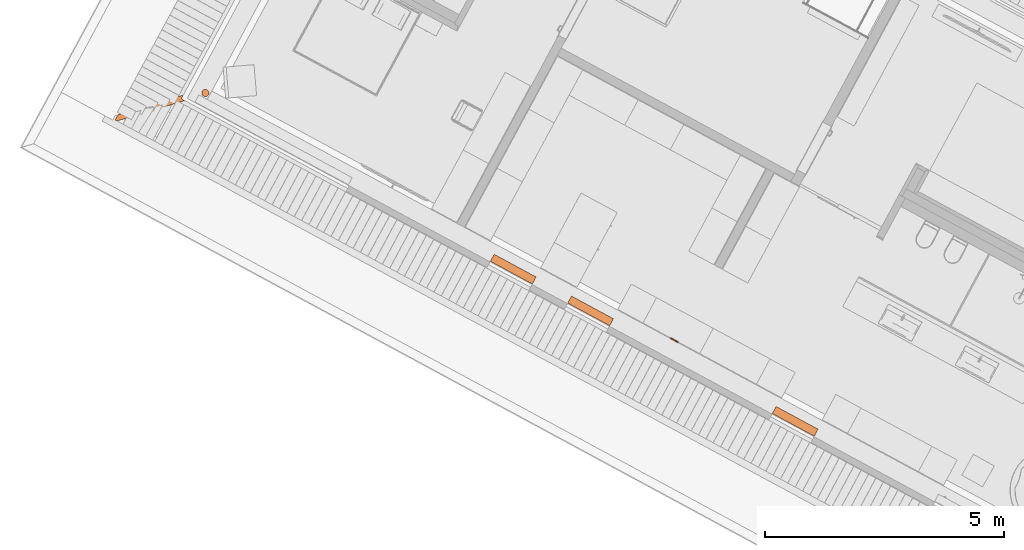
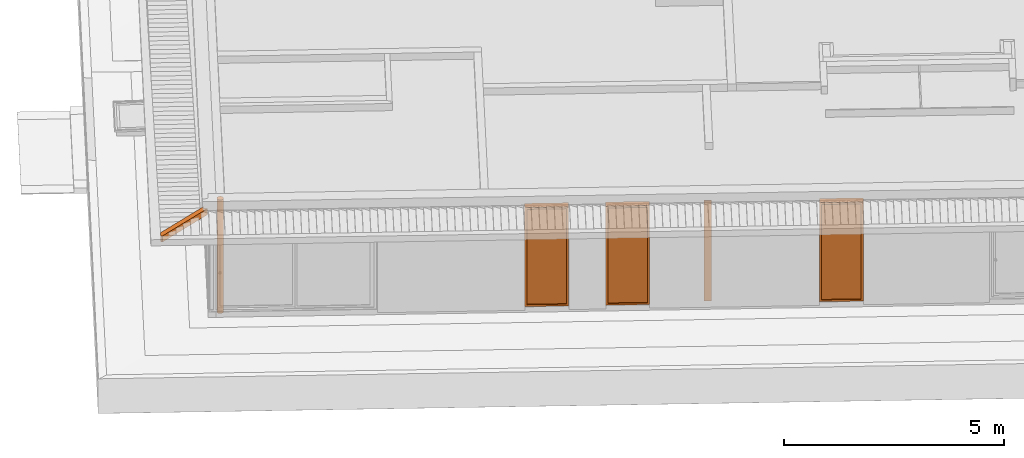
# One storey, part 39 of 48: 6 proxies.
"""IFC2X3 building model written with IfcOpenShell, lengths in metres."""

from ifc_helpers import new_model, entity, si_unit, converted_unit, derived_unit, money_unit, direction, frame, origin_with_axes, place, context, subcontext, project, spatial, faceted_brep, material, material_list, type_object, element, save


model = new_model("IFC2X3")

# Units and contexts
model_context = context("Model", 3, precision=1e-05, world=origin_with_axes(), true_north=direction((0.0, 1.0)))
body_context = subcontext(model_context, "Body", "Model", "MODEL_VIEW")
ifc_project = project(units=[si_unit("LENGTHUNIT", "METRE"), si_unit("AREAUNIT", "SQUARE_METRE"), si_unit("VOLUMEUNIT", "CUBIC_METRE"), converted_unit("PLANEANGLEUNIT", "DEGREE", entity("IfcPlaneAngleMeasure", 0.0174532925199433), si_unit("PLANEANGLEUNIT", "RADIAN"), dimensions=[0, 0, 0, 0, 0, 0, 0]), money_unit("EUR"), converted_unit("TIMEUNIT", "Year", entity("IfcTimeMeasure", 31556926.0), si_unit("TIMEUNIT", "SECOND"), dimensions=[0, 0, 1, 0, 0, 0, 0]), si_unit("MASSUNIT", "GRAM", prefix="KILO"), si_unit("THERMODYNAMICTEMPERATUREUNIT", "DEGREE_CELSIUS"), si_unit("LUMINOUSINTENSITYUNIT", "LUMEN"), si_unit("ENERGYUNIT", "JOULE", prefix="MEGA"), derived_unit("THERMALCONDUCTANCEUNIT", [(si_unit("POWERUNIT", "WATT"), 1), (si_unit("LENGTHUNIT", "METRE"), -1), (si_unit("THERMODYNAMICTEMPERATUREUNIT", "KELVIN"), -1)]), derived_unit("SPECIFICHEATCAPACITYUNIT", [(si_unit("ENERGYUNIT", "JOULE"), 1), (si_unit("MASSUNIT", "GRAM", prefix="KILO"), -1), (si_unit("THERMODYNAMICTEMPERATUREUNIT", "KELVIN"), -1)]), derived_unit("MASSDENSITYUNIT", [(si_unit("MASSUNIT", "GRAM", prefix="KILO"), 1), (si_unit("VOLUMEUNIT", "CUBIC_METRE"), -1)])], contexts=[model_context])

# Site, building, storey
site_placement = place(None, frame((-3.949935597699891, 1.740105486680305, 0.0), z_axis=(0.0, 0.0, 1.0), x_axis=(0.8799804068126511, -0.475009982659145, 0.0)))
site = spatial("IfcSite", under=ifc_project, at=site_placement, Name="Gelände", CompositionType="ELEMENT")
building_placement = place(site_placement, origin_with_axes())
building = spatial("IfcBuilding", under=site, at=building_placement, Name="Gebäude", CompositionType="ELEMENT")
storey_placement = place(building_placement, frame((0.0, 0.0, 4.55), z_axis=(0.0, 0.0, 1.0), x_axis=(1.0, 0.0, 0.0)))
storey = spatial("IfcBuildingStorey", under=building, at=storey_placement, Name="Staffelgeschoss", CompositionType="ELEMENT", Elevation=4.55)

# Proxies
ifc_material_1 = material(Name="Glas, Normalglas-50% durchlässig")
ifc_material_2 = material(Name="Metall, Stahl lackiert")
ifc_material_list_1 = material_list([ifc_material_1, ifc_material_2, ifc_material_2, ifc_material_2, ifc_material_2, ifc_material_2, ifc_material_2])
building_element_proxy_type_1 = type_object("IfcBuildingElementProxyType", Name="Fassadentyp", PredefinedType="NOTDEFINED")
proxy_1_placement = place(storey_placement, frame((19.47427115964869, 1.291987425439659, -5.75946277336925e-07), z_axis=(0.0, 0.0, 1.0), x_axis=(1.0, 0.0, 0.0)))
element("IfcBuildingElementProxy", 1, at=proxy_1_placement, inside=storey, type_object=building_element_proxy_type_1, material=ifc_material_list_1, Name="Fassade-006", context=body_context, shape_type="Brep", body=[
    faceted_brep([(0.6305897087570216, 0.01500000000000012, 2.720000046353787), (-0.3094103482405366, 0.01500000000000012, 2.720000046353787), (-0.3094103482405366, -0.0149999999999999, 2.720000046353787), (0.6305897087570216, -0.0149999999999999, 2.720000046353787), (0.6305897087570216, 0.0149999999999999, 0.03000000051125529), (-0.3094103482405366, 0.0149999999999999, 0.03000004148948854), (-0.3094103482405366, -0.0149999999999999, 0.03000004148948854), (0.6305897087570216, -0.0149999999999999, 0.03000000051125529)], [[[0, 1, 2, 3]], [[0, 4, 5, 1]], [[1, 5, 6, 2]], [[3, 2, 6, 7]], [[4, 0, 3, 7]], [[5, 4, 7, 6]]]),
    faceted_brep([(-0.339410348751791, -0.03499999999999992, 0.0), (-0.3211792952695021, -0.03499999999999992, 0.0), (-0.3211792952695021, -0.03499999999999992, 0.01823101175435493), (-0.339410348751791, 0.133, 0.0), (-0.3211792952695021, 0.133, 0.0), (-0.3211792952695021, 0.133, 0.01823101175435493)], [[[0, 1, 2]], [[3, 4, 1, 0]], [[2, 1, 4, 5]], [[2, 5, 3, 0]], [[5, 4, 3]]]),
    faceted_brep([(0.6305897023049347, 0.0149999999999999, 2.720000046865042), (0.6105897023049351, 0.0149999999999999, 2.700000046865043), (0.6105897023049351, 0.133, 2.700000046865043), (0.6605897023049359, 0.133, 2.750000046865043), (0.6605897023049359, -0.03500000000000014, 2.750000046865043), (0.6105897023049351, -0.03500000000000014, 2.700000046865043), (0.6105897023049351, -0.01500000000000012, 2.700000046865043), (0.6305897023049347, -0.01500000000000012, 2.720000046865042), (-0.3211793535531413, 0.0149999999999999, 2.720000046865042), (-0.3211793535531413, 0.0149999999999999, 2.700000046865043), (-0.3211793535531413, 0.133, 2.700000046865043), (-0.3211793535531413, 0.133, 2.750000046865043), (-0.3211793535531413, -0.03499999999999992, 2.750000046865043), (-0.3211793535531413, -0.03499999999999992, 2.700000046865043), (-0.3211793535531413, -0.0149999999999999, 2.700000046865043), (-0.3211793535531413, -0.0149999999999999, 2.720000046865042)], [[[0, 1, 2, 3, 4, 5, 6, 7]], [[0, 8, 9, 1]], [[9, 10, 2, 1]], [[10, 11, 3, 2]], [[11, 12, 4, 3]], [[12, 13, 5, 4]], [[6, 5, 13, 14]], [[14, 15, 7, 6]], [[7, 15, 8, 0]], [[8, 15, 14, 13, 12, 11, 10, 9]]]),
    faceted_brep([(-0.339410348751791, -0.03499999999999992, 2.750000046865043), (-0.3211793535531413, -0.03499999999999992, 2.731769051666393), (-0.3211793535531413, -0.03499999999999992, 2.750000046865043), (-0.339410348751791, 0.133, 2.750000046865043), (-0.3211793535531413, 0.133, 2.731769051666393), (-0.3211793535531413, 0.133, 2.750000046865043)], [[[0, 1, 2]], [[1, 0, 3, 4]], [[1, 4, 5, 2]], [[3, 0, 2, 5]], [[4, 3, 5]]]),
    faceted_brep([(0.6305897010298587, 0.0149999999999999, 0.03000004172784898), (0.6305897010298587, -0.01500000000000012, 0.03000004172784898), (0.6105897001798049, -0.01500000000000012, 0.05000004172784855), (0.6105897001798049, -0.03500000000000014, 0.05000004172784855), (0.6605897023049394, -0.03500000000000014, 4.172784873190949e-08), (0.6605897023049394, 0.133, 4.172784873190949e-08), (0.6105897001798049, 0.133, 0.05000004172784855), (0.6105897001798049, 0.0149999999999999, 0.05000004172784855), (-0.3211794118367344, 0.0149999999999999, 0.03000004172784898), (-0.3211794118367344, -0.0149999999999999, 0.03000004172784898), (-0.3211794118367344, -0.0149999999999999, 0.05000004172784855), (-0.3211794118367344, -0.03499999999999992, 0.05000004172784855), (-0.3211794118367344, -0.03499999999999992, 4.172784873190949e-08), (-0.3211794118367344, 0.133, 4.172784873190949e-08), (-0.3211794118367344, 0.133, 0.05000004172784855), (-0.3211794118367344, 0.01500000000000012, 0.05000004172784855)], [[[0, 1, 2, 3, 4, 5, 6, 7]], [[1, 0, 8, 9]], [[10, 2, 1, 9]], [[2, 10, 11, 3]], [[12, 4, 3, 11]], [[13, 5, 4, 12]], [[14, 6, 5, 13]], [[15, 7, 6, 14]], [[0, 7, 15, 8]], [[8, 15, 14, 13, 12, 11, 10, 9]]]),
    faceted_brep([(-0.3094103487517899, 0.0149999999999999, 0.03000004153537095), (-0.3094103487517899, -0.0149999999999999, 0.03000004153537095), (-0.2894103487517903, -0.0149999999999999, 0.05000004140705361), (-0.2894103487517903, -0.03499999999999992, 0.05000004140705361), (-0.339410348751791, -0.03499999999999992, 4.172784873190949e-08), (-0.339410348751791, 0.133, 4.172784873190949e-08), (-0.2894103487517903, 0.133, 0.05000004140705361), (-0.2894103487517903, 0.0149999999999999, 0.05000004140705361), (-0.3094103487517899, 0.0149999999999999, 2.720000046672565), (-0.3094103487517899, -0.0149999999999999, 2.720000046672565), (-0.2894103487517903, -0.0149999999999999, 2.700000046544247), (-0.2894103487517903, -0.03499999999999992, 2.700000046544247), (-0.339410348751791, -0.03499999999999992, 2.750000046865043), (-0.339410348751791, 0.133, 2.750000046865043), (-0.2894103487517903, 0.133, 2.700000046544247), (-0.2894103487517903, 0.01500000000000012, 2.700000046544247)], [[[0, 1, 2, 3, 4, 5, 6, 7]], [[1, 0, 8, 9]], [[10, 2, 1, 9]], [[2, 10, 11, 3]], [[4, 3, 11, 12]], [[5, 4, 12, 13]], [[6, 5, 13, 14]], [[15, 7, 6, 14]], [[0, 7, 15, 8]], [[8, 15, 14, 13, 12, 11, 10, 9]]]),
    faceted_brep([(0.6305897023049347, 0.0149999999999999, 2.720000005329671), (0.6305897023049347, -0.0149999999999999, 2.720000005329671), (0.6105897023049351, -0.0149999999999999, 2.70000000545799), (0.6105897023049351, -0.03499999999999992, 2.70000000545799), (0.6605897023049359, -0.03499999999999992, 2.750000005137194), (0.6605897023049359, 0.133, 2.750000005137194), (0.6105897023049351, 0.133, 2.70000000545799), (0.6105897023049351, 0.0149999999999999, 2.70000000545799), (0.6305897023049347, 0.0149999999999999, 0.03000000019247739), (0.6305897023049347, -0.0149999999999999, 0.03000000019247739), (0.6105897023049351, -0.0149999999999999, 0.05000000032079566), (0.6105897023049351, -0.03499999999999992, 0.05000000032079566), (0.6605897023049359, -0.03499999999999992, 0.0), (0.6605897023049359, 0.133, 0.0), (0.6105897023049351, 0.133, 0.05000000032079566), (0.6105897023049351, 0.0149999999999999, 0.05000000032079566)], [[[0, 1, 2, 3, 4, 5, 6, 7]], [[1, 0, 8, 9]], [[10, 2, 1, 9]], [[2, 10, 11, 3]], [[4, 3, 11, 12]], [[5, 4, 12, 13]], [[6, 5, 13, 14]], [[15, 7, 6, 14]], [[0, 7, 15, 8]], [[8, 15, 14, 13, 12, 11, 10, 9]]]),
])
proxy_2_placement = place(storey_placement, frame((12.7656115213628, 1.291987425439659, -5.342184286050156e-07), z_axis=(0.0, 0.0, 1.0), x_axis=(1.0, 0.0, 0.0)))
element("IfcBuildingElementProxy", 2, at=proxy_2_placement, inside=storey, type_object=building_element_proxy_type_1, material=ifc_material_list_1, Name="Fassade-006", context=body_context, shape_type="Brep", body=[
    faceted_brep([(0.6285923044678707, 0.01500000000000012, 2.720000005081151), (-0.3114077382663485, 0.01500000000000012, 2.720000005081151), (-0.3114077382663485, -0.0149999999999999, 2.720000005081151), (0.6285923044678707, -0.0149999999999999, 2.720000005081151), (0.6285923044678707, 0.0149999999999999, 0.03000000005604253), (-0.3114077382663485, 0.0149999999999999, 0.03000000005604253), (-0.3114077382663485, -0.0149999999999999, 0.03000000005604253), (0.6285923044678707, -0.0149999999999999, 0.03000000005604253)], [[[0, 1, 2, 3]], [[0, 4, 5, 1]], [[1, 5, 6, 2]], [[3, 2, 6, 7]], [[4, 0, 3, 7]], [[5, 4, 7, 6]]]),
    faceted_brep([(-0.3414077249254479, -0.03499999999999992, 0.0), (-0.3171845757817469, -0.03499999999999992, 0.0), (-0.3171845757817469, -0.03499999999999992, 0.0242231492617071), (-0.3414077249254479, 0.133, 0.0), (-0.3171845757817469, 0.133, 0.0), (-0.3171845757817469, 0.133, 0.0242231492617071)], [[[0, 1, 2]], [[3, 4, 1, 0]], [[2, 1, 4, 5]], [[2, 5, 3, 0]], [[5, 4, 3]]]),
    faceted_brep([(0.6285922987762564, 0.0149999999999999, 2.720000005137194), (0.6085922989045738, 0.0149999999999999, 2.700000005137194), (0.6085922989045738, 0.133, 2.700000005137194), (0.6585922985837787, 0.133, 2.750000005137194), (0.6585922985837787, -0.03500000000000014, 2.750000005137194), (0.6085922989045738, -0.03500000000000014, 2.700000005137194), (0.6085922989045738, -0.01500000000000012, 2.700000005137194), (0.6285922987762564, -0.01500000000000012, 2.720000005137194), (-0.3171845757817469, 0.0149999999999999, 2.720000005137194), (-0.3171845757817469, 0.0149999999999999, 2.700000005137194), (-0.3171845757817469, 0.133, 2.700000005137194), (-0.3171845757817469, 0.133, 2.750000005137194), (-0.3171845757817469, -0.03499999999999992, 2.750000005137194), (-0.3171845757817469, -0.03499999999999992, 2.700000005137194), (-0.3171845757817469, -0.0149999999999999, 2.700000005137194), (-0.3171845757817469, -0.0149999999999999, 2.720000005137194)], [[[0, 1, 2, 3, 4, 5, 6, 7]], [[0, 8, 9, 1]], [[9, 10, 2, 1]], [[10, 11, 3, 2]], [[11, 12, 4, 3]], [[12, 13, 5, 4]], [[6, 5, 13, 14]], [[14, 15, 7, 6]], [[7, 15, 8, 0]], [[8, 15, 14, 13, 12, 11, 10, 9]]]),
    faceted_brep([(-0.3414077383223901, -0.03499999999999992, 2.750000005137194), (-0.3171845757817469, -0.03499999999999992, 2.725776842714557), (-0.3171845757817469, -0.03499999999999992, 2.750000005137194), (-0.3414077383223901, 0.133, 2.750000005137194), (-0.3171845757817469, 0.133, 2.725776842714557), (-0.3171845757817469, 0.133, 2.750000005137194)], [[[0, 1, 2]], [[1, 0, 3, 4]], [[1, 4, 5, 2]], [[3, 0, 2, 5]], [[4, 3, 5]]]),
    faceted_brep([(0.6285923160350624, 0.0149999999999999, 0.03000000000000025), (0.6285923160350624, -0.01500000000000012, 0.03000000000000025), (0.6085923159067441, -0.01500000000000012, 0.04999999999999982), (0.6085923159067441, -0.03500000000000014, 0.04999999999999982), (0.6585923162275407, -0.03500000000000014, 0.0), (0.6585923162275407, 0.133, 0.0), (0.6085923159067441, 0.133, 0.04999999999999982), (0.6085923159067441, 0.0149999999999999, 0.04999999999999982), (-0.3171845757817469, 0.0149999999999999, 0.03000000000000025), (-0.3171845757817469, -0.0149999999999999, 0.03000000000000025), (-0.3171845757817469, -0.0149999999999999, 0.04999999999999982), (-0.3171845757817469, -0.03499999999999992, 0.04999999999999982), (-0.3171845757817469, -0.03499999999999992, 0.0), (-0.3171845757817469, 0.133, 0.0), (-0.3171845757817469, 0.133, 0.04999999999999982), (-0.3171845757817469, 0.01500000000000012, 0.04999999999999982)], [[[0, 1, 2, 3, 4, 5, 6, 7]], [[1, 0, 8, 9]], [[10, 2, 1, 9]], [[2, 10, 11, 3]], [[12, 4, 3, 11]], [[13, 5, 4, 12]], [[14, 6, 5, 13]], [[15, 7, 6, 14]], [[0, 7, 15, 8]], [[8, 15, 14, 13, 12, 11, 10, 9]]]),
    faceted_brep([(-0.3114077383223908, 0.0149999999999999, 0.02999999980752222), (-0.3114077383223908, -0.0149999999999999, 0.02999999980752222), (-0.2914077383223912, -0.0149999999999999, 0.04999999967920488), (-0.2914077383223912, -0.03499999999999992, 0.04999999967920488), (-0.3414077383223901, -0.03499999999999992, 0.0), (-0.3414077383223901, 0.133, 0.0), (-0.2914077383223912, 0.133, 0.04999999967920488), (-0.2914077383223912, 0.0149999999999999, 0.04999999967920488), (-0.3114077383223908, 0.0149999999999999, 2.720000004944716), (-0.3114077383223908, -0.0149999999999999, 2.720000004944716), (-0.2914077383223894, -0.0149999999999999, 2.700000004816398), (-0.2914077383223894, -0.03499999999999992, 2.700000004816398), (-0.3414077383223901, -0.03499999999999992, 2.750000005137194), (-0.3414077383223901, 0.133, 2.750000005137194), (-0.2914077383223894, 0.133, 2.700000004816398), (-0.2914077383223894, 0.01500000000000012, 2.700000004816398)], [[[0, 1, 2, 3, 4, 5, 6, 7]], [[1, 0, 8, 9]], [[10, 2, 1, 9]], [[2, 10, 11, 3]], [[4, 3, 11, 12]], [[5, 4, 12, 13]], [[6, 5, 13, 14]], [[15, 7, 6, 14]], [[0, 7, 15, 8]], [[8, 15, 14, 13, 12, 11, 10, 9]]]),
    faceted_brep([(0.6285923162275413, 0.0149999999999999, 2.720000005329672), (0.6285923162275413, -0.0149999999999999, 2.720000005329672), (0.60859231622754, -0.0149999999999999, 2.700000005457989), (0.60859231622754, -0.03499999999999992, 2.700000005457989), (0.6585923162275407, -0.03499999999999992, 2.750000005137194), (0.6585923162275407, 0.133, 2.750000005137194), (0.60859231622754, 0.133, 2.700000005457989), (0.60859231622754, 0.0149999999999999, 2.700000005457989), (0.6285923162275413, 0.0149999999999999, 0.03000000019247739), (0.6285923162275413, -0.0149999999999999, 0.03000000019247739), (0.60859231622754, -0.0149999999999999, 0.05000000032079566), (0.60859231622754, -0.03499999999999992, 0.05000000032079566), (0.6585923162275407, -0.03499999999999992, 0.0), (0.6585923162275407, 0.133, 0.0), (0.60859231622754, 0.133, 0.05000000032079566), (0.60859231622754, 0.0149999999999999, 0.05000000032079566)], [[[0, 1, 2, 3, 4, 5, 6, 7]], [[1, 0, 8, 9]], [[10, 2, 1, 9]], [[2, 10, 11, 3]], [[4, 3, 11, 12]], [[5, 4, 12, 13]], [[6, 5, 13, 14]], [[15, 7, 6, 14]], [[0, 7, 15, 8]], [[8, 15, 14, 13, 12, 11, 10, 9]]]),
])
proxy_3_placement = place(storey_placement, frame((14.60639966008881, 1.291987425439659, -5.342184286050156e-07), z_axis=(0.0, 0.0, 1.0), x_axis=(1.0, 0.0, 0.0)))
element("IfcBuildingElementProxy", 3, at=proxy_3_placement, inside=storey, type_object=building_element_proxy_type_1, material=ifc_material_list_1, Name="Fassade-006", context=body_context, shape_type="Brep", body=[
    faceted_brep([(0.6285923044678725, 0.01500000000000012, 2.720000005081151), (-0.3114077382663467, 0.01500000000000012, 2.720000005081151), (-0.3114077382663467, -0.0149999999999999, 2.720000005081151), (0.6285923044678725, -0.0149999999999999, 2.720000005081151), (0.6285923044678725, 0.0149999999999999, 0.03000000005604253), (-0.3114077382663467, 0.0149999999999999, 0.03000000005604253), (-0.3114077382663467, -0.0149999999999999, 0.03000000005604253), (0.6285923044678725, -0.0149999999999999, 0.03000000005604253)], [[[0, 1, 2, 3]], [[0, 4, 5, 1]], [[1, 5, 6, 2]], [[3, 2, 6, 7]], [[4, 0, 3, 7]], [[5, 4, 7, 6]]]),
    faceted_brep([(-0.3414077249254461, -0.03499999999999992, 0.0), (-0.3171845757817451, -0.03499999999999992, 0.0), (-0.3171845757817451, -0.03499999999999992, 0.0242231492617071), (-0.3414077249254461, 0.133, 0.0), (-0.3171845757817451, 0.133, 0.0), (-0.3171845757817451, 0.133, 0.0242231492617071)], [[[0, 1, 2]], [[3, 4, 1, 0]], [[2, 1, 4, 5]], [[2, 5, 3, 0]], [[5, 4, 3]]]),
    faceted_brep([(0.6285922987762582, 0.0149999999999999, 2.720000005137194), (0.6085922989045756, 0.0149999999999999, 2.700000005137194), (0.6085922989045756, 0.133, 2.700000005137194), (0.6585922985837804, 0.133, 2.750000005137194), (0.6585922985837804, -0.03500000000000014, 2.750000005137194), (0.6085922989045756, -0.03500000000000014, 2.700000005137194), (0.6085922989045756, -0.01500000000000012, 2.700000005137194), (0.6285922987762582, -0.01500000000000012, 2.720000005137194), (-0.3171845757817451, 0.0149999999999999, 2.720000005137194), (-0.3171845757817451, 0.0149999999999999, 2.700000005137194), (-0.3171845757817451, 0.133, 2.700000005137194), (-0.3171845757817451, 0.133, 2.750000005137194), (-0.3171845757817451, -0.03499999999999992, 2.750000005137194), (-0.3171845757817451, -0.03499999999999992, 2.700000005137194), (-0.3171845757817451, -0.0149999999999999, 2.700000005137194), (-0.3171845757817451, -0.0149999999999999, 2.720000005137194)], [[[0, 1, 2, 3, 4, 5, 6, 7]], [[0, 8, 9, 1]], [[9, 10, 2, 1]], [[10, 11, 3, 2]], [[11, 12, 4, 3]], [[12, 13, 5, 4]], [[6, 5, 13, 14]], [[14, 15, 7, 6]], [[7, 15, 8, 0]], [[8, 15, 14, 13, 12, 11, 10, 9]]]),
    faceted_brep([(-0.3414077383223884, -0.03499999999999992, 2.750000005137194), (-0.3171845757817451, -0.03499999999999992, 2.725776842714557), (-0.3171845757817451, -0.03499999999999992, 2.750000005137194), (-0.3414077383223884, 0.133, 2.750000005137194), (-0.3171845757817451, 0.133, 2.725776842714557), (-0.3171845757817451, 0.133, 2.750000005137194)], [[[0, 1, 2]], [[1, 0, 3, 4]], [[1, 4, 5, 2]], [[3, 0, 2, 5]], [[4, 3, 5]]]),
    faceted_brep([(0.6285923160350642, 0.0149999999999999, 0.03000000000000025), (0.6285923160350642, -0.01500000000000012, 0.03000000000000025), (0.6085923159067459, -0.01500000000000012, 0.04999999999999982), (0.6085923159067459, -0.03500000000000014, 0.04999999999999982), (0.6585923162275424, -0.03500000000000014, 0.0), (0.6585923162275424, 0.133, 0.0), (0.6085923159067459, 0.133, 0.04999999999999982), (0.6085923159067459, 0.0149999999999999, 0.04999999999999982), (-0.3171845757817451, 0.0149999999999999, 0.03000000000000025), (-0.3171845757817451, -0.0149999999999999, 0.03000000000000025), (-0.3171845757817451, -0.0149999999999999, 0.04999999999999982), (-0.3171845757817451, -0.03499999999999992, 0.04999999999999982), (-0.3171845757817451, -0.03499999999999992, 0.0), (-0.3171845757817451, 0.133, 0.0), (-0.3171845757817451, 0.133, 0.04999999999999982), (-0.3171845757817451, 0.01500000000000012, 0.04999999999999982)], [[[0, 1, 2, 3, 4, 5, 6, 7]], [[1, 0, 8, 9]], [[10, 2, 1, 9]], [[2, 10, 11, 3]], [[12, 4, 3, 11]], [[13, 5, 4, 12]], [[14, 6, 5, 13]], [[15, 7, 6, 14]], [[0, 7, 15, 8]], [[8, 15, 14, 13, 12, 11, 10, 9]]]),
    faceted_brep([(-0.311407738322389, 0.0149999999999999, 0.02999999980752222), (-0.311407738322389, -0.0149999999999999, 0.02999999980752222), (-0.2914077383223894, -0.0149999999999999, 0.04999999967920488), (-0.2914077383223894, -0.03499999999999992, 0.04999999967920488), (-0.3414077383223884, -0.03499999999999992, 0.0), (-0.3414077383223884, 0.133, 0.0), (-0.2914077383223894, 0.133, 0.04999999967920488), (-0.2914077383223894, 0.0149999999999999, 0.04999999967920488), (-0.311407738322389, 0.0149999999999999, 2.720000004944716), (-0.311407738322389, -0.0149999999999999, 2.720000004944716), (-0.2914077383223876, -0.0149999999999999, 2.700000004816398), (-0.2914077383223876, -0.03499999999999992, 2.700000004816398), (-0.3414077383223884, -0.03499999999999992, 2.750000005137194), (-0.3414077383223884, 0.133, 2.750000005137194), (-0.2914077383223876, 0.133, 2.700000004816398), (-0.2914077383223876, 0.01500000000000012, 2.700000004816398)], [[[0, 1, 2, 3, 4, 5, 6, 7]], [[1, 0, 8, 9]], [[10, 2, 1, 9]], [[2, 10, 11, 3]], [[4, 3, 11, 12]], [[5, 4, 12, 13]], [[6, 5, 13, 14]], [[15, 7, 6, 14]], [[0, 7, 15, 8]], [[8, 15, 14, 13, 12, 11, 10, 9]]]),
    faceted_brep([(0.6285923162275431, 0.0149999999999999, 2.720000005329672), (0.6285923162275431, -0.0149999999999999, 2.720000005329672), (0.6085923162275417, -0.0149999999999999, 2.700000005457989), (0.6085923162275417, -0.03499999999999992, 2.700000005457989), (0.6585923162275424, -0.03499999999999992, 2.750000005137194), (0.6585923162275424, 0.133, 2.750000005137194), (0.6085923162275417, 0.133, 2.700000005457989), (0.6085923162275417, 0.0149999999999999, 2.700000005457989), (0.6285923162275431, 0.0149999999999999, 0.03000000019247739), (0.6285923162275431, -0.0149999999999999, 0.03000000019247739), (0.6085923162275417, -0.0149999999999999, 0.05000000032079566), (0.6085923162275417, -0.03499999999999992, 0.05000000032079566), (0.6585923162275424, -0.03499999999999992, 0.0), (0.6585923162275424, 0.133, 0.0), (0.6085923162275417, 0.133, 0.05000000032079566), (0.6085923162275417, 0.0149999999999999, 0.05000000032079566)], [[[0, 1, 2, 3, 4, 5, 6, 7]], [[1, 0, 8, 9]], [[10, 2, 1, 9]], [[2, 10, 11, 3]], [[4, 3, 11, 12]], [[5, 4, 12, 13]], [[6, 5, 13, 14]], [[15, 7, 6, 14]], [[0, 7, 15, 8]], [[8, 15, 14, 13, 12, 11, 10, 9]]]),
])
ifc_material_3 = material(Name="Metall, Edelstahl")
building_element_proxy_type_2 = type_object("IfcBuildingElementProxyType", Name="Metall, Edelstahl D152", PredefinedType="NOTDEFINED")
proxy_4_placement = place(storey_placement, frame((5.497480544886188, 1.52499043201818, -0.1900000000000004), z_axis=(0.0, 0.0, 1.0), x_axis=(1.0, 0.0, 0.0)))
element("IfcBuildingElementProxy", 4, at=proxy_4_placement, inside=storey, type_object=building_element_proxy_type_2, material=ifc_material_3, Name="Stütze-003", context=body_context, shape_type="Brep", body=[
    faceted_brep([(-0.07599999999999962, 0.0, 3.155000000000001), (-0.07599999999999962, 0.0, 0.0), (-0.07228029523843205, -0.0234852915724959, 0.0), (-0.07228029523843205, -0.0234852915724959, 3.155000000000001), (-0.07228029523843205, 0.02348529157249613, 3.155000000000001), (-0.07228029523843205, 0.02348529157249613, 0.0), (-0.06148529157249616, 0.04467167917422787, 0.0), (-0.0446716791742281, 0.06148529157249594, 0.0), (-0.0234852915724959, 0.0722802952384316, 0.0), (0.0, 0.07600000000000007, 0.0), (0.0234852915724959, 0.0722802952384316, 0.0), (0.0446716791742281, 0.06148529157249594, 0.0), (0.06148529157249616, 0.04467167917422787, 0.0), (0.07228029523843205, 0.0234852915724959, 0.0), (0.07599999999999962, 0.0, 0.0), (0.07228029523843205, -0.02348529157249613, 0.0), (0.06148529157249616, -0.04467167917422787, 0.0), (0.0446716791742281, -0.06148529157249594, 0.0), (0.0234852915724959, -0.0722802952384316, 0.0), (0.0, -0.07600000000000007, 0.0), (-0.0234852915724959, -0.0722802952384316, 0.0), (-0.0446716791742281, -0.06148529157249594, 0.0), (-0.06148529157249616, -0.04467167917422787, 0.0), (-0.06148529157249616, -0.04467167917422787, 3.155000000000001), (-0.0446716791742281, -0.06148529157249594, 3.155000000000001), (-0.0234852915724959, -0.0722802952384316, 3.155000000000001), (0.0, -0.07600000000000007, 3.155000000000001), (0.0234852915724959, -0.0722802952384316, 3.155000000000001), (0.0446716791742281, -0.06148529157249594, 3.155000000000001), (0.06148529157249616, -0.04467167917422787, 3.155000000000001), (0.07228029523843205, -0.02348529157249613, 3.155000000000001), (0.07599999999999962, 0.0, 3.155000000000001), (0.07228029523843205, 0.0234852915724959, 3.155000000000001), (0.06148529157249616, 0.04467167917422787, 3.155000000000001), (0.0446716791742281, 0.06148529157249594, 3.155000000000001), (0.0234852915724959, 0.0722802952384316, 3.155000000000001), (0.0, 0.07600000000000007, 3.155000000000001), (-0.0234852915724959, 0.0722802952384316, 3.155000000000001), (-0.0446716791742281, 0.06148529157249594, 3.155000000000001), (-0.06148529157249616, 0.04467167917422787, 3.155000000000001)], [[[0, 1, 2, 3]], [[4, 5, 1, 0]], [[2, 1, 5, 6, 7, 8, 9, 10, 11, 12, 13, 14, 15, 16, 17, 18, 19, 20, 21, 22]], [[3, 2, 22, 23]], [[4, 0, 3, 23, 24, 25, 26, 27, 28, 29, 30, 31, 32, 33, 34, 35, 36, 37, 38, 39]], [[39, 6, 5, 4]], [[38, 7, 6, 39]], [[37, 8, 7, 38]], [[36, 9, 8, 37]], [[35, 10, 9, 36]], [[34, 11, 10, 35]], [[33, 12, 11, 34]], [[32, 13, 12, 33]], [[31, 14, 13, 32]], [[30, 15, 14, 31]], [[29, 16, 15, 30]], [[28, 17, 16, 29]], [[27, 18, 17, 28]], [[26, 19, 18, 27]], [[25, 20, 19, 26]], [[24, 21, 20, 25]], [[23, 22, 21, 24]]]),
])
ifc_material_4 = material(Name="MW Kalksandstein")
building_element_proxy_type_3 = type_object("IfcBuildingElementProxyType", Name="MW Kalksandstein 175", PredefinedType="NOTDEFINED")
proxy_5_placement = place(storey_placement, frame((16.68750580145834, 1.647030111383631, -0.1899999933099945), z_axis=(0.0, 0.0, 1.0), x_axis=(0.0, -1.0, 0.0)))
element("IfcBuildingElementProxy", 5, at=proxy_5_placement, inside=storey, type_object=building_element_proxy_type_3, material=ifc_material_4, Name="I-Wand017", context=body_context, shape_type="Brep", body=[
    faceted_brep([(0.0, -0.1750000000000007, 2.794999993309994), (0.02203705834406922, -0.1750000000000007, 2.794999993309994), (0.02203705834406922, 0.0, 2.794999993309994), (0.0, 0.0, 2.794999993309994), (0.0, -0.1750000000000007, 0.0), (0.02203705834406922, -0.1750000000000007, 0.0), (0.02203705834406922, 0.0, 0.0), (0.0, 0.0, 0.0)], [[[0, 1, 2, 3]], [[4, 5, 1, 0]], [[2, 1, 5, 6]], [[3, 2, 6, 7]], [[4, 0, 3, 7]], [[7, 6, 5, 4]]]),
])
ifc_material_5 = material(Name="Beton, Leichtbeton")
ifc_material_6 = material(Name="Kleber")
ifc_material_7 = material(Name="Estrich")
ifc_material_8 = material(Name="Dämmung, hart EPS")
ifc_material_list_2 = material_list([ifc_material_5, ifc_material_6, ifc_material_7, ifc_material_8])
building_element_proxy_type_4 = type_object("IfcBuildingElementProxyType", Name="BO | Dämmung 8+Folie+Estrich 7+Fliese 0,5 | 16cm 170", PredefinedType="NOTDEFINED")
proxy_6_placement = place(storey_placement, frame((4.105283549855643, 0.258779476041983, 2.75), z_axis=(0.0, 0.0, 1.0), x_axis=(1.0, 0.0, 0.0)))
element("IfcBuildingElementProxy", 6, at=proxy_6_placement, inside=storey, type_object=building_element_proxy_type_4, material=ifc_material_list_2, Name="Decke029", context=body_context, shape_type="Brep", body=[
    faceted_brep([(0.0008791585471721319, -0.128752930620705, 0.1600000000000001), (0.0008791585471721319, -0.128752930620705, 0.1699999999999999), (0.0, 0.0, 0.1699999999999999), (0.0, 0.0, 0.1600000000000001), (0.04320030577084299, -0.1287529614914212, 0.1600000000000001), (0.04320030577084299, -0.1287529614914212, 0.1699999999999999), (1.093174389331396, 0.9212211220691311, 0.1699999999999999), (1.007197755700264, 0.9212211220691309, 0.1699999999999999), (1.007197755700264, 1.007197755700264, 0.1699999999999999), (1.007197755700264, 1.007197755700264, 0.1600000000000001), (1.007197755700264, 0.9212211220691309, 0.1600000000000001), (1.093174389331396, 0.9212211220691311, 0.1600000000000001)], [[[0, 1, 2, 3]], [[4, 5, 1, 0]], [[2, 1, 5, 6, 7, 8]], [[3, 2, 8, 9]], [[3, 9, 10, 11, 4, 0]], [[11, 6, 5, 4]], [[10, 7, 6, 11]], [[9, 8, 7, 10]]]),
    faceted_brep([(0.0008791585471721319, -0.128752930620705, 0.1500000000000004), (0.0008791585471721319, -0.128752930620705, 0.1600000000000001), (0.0, 0.0, 0.1600000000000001), (0.0, 0.0, 0.1500000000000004), (0.04320030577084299, -0.1287529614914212, 0.1500000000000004), (0.04320030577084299, -0.1287529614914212, 0.1600000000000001), (1.093174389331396, 0.9212211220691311, 0.1600000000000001), (1.007197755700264, 0.9212211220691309, 0.1600000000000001), (1.007197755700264, 1.007197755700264, 0.1600000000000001), (1.007197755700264, 1.007197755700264, 0.1500000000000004), (1.007197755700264, 0.9212211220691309, 0.1500000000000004), (1.093174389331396, 0.9212211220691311, 0.1500000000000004)], [[[0, 1, 2, 3]], [[4, 5, 1, 0]], [[2, 1, 5, 6, 7, 8]], [[3, 2, 8, 9]], [[3, 9, 10, 11, 4, 0]], [[11, 6, 5, 4]], [[10, 7, 6, 11]], [[9, 8, 7, 10]]]),
    faceted_brep([(0.0008791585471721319, -0.128752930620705, 0.08000000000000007), (0.0008791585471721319, -0.128752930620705, 0.1500000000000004), (0.0, 0.0, 0.1500000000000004), (0.0, 0.0, 0.08000000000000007), (0.04320030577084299, -0.1287529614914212, 0.08000000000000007), (0.04320030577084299, -0.1287529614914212, 0.1500000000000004), (1.093174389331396, 0.9212211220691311, 0.1500000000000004), (1.007197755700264, 0.9212211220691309, 0.1500000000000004), (1.007197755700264, 1.007197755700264, 0.1500000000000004), (1.007197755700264, 1.007197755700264, 0.08000000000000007), (1.007197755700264, 0.9212211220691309, 0.08000000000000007), (1.093174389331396, 0.9212211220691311, 0.08000000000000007)], [[[0, 1, 2, 3]], [[4, 5, 1, 0]], [[2, 1, 5, 6, 7, 8]], [[3, 2, 8, 9]], [[3, 9, 10, 11, 4, 0]], [[11, 6, 5, 4]], [[10, 7, 6, 11]], [[9, 8, 7, 10]]]),
    faceted_brep([(0.0, 0.0, 0.0), (0.0008791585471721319, -0.128752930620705, 0.0), (0.0008791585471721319, -0.128752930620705, 0.08000000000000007), (0.0, 0.0, 0.08000000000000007), (1.007197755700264, 1.007197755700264, 0.0), (1.007197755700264, 0.9212211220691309, 0.0), (1.093174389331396, 0.9212211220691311, 0.0), (0.04320030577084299, -0.1287529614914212, 0.0), (0.04320030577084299, -0.1287529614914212, 0.08000000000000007), (1.093174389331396, 0.9212211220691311, 0.08000000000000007), (1.007197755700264, 0.9212211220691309, 0.08000000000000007), (1.007197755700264, 1.007197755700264, 0.08000000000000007)], [[[0, 1, 2, 3]], [[0, 4, 5, 6, 7, 1]], [[1, 7, 8, 2]], [[3, 2, 8, 9, 10, 11]], [[4, 0, 3, 11]], [[5, 4, 11, 10]], [[6, 5, 10, 9]], [[7, 6, 9, 8]]]),
])

save(model, "model.ifc")
